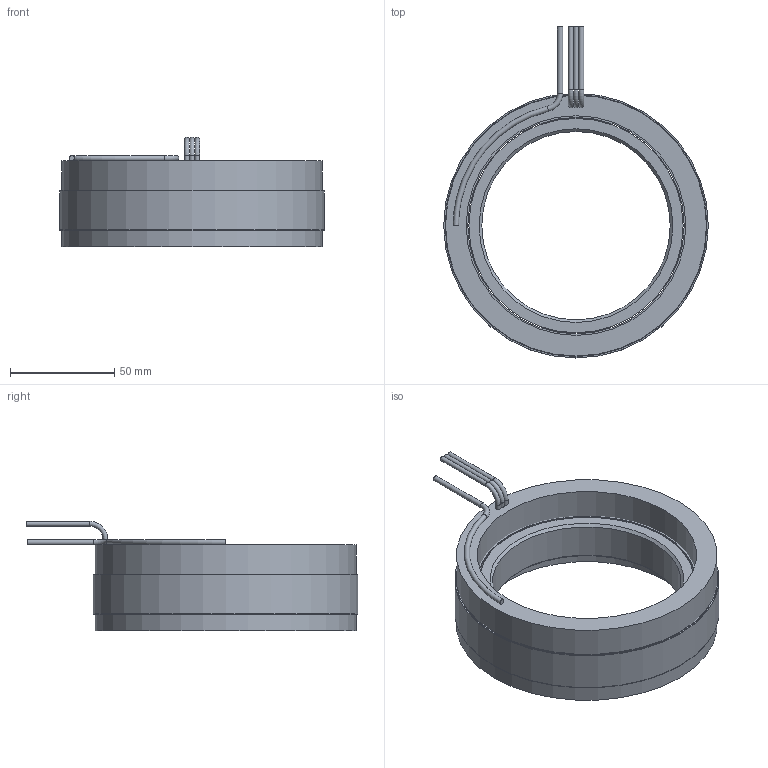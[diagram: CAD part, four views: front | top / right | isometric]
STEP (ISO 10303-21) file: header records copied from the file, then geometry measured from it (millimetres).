
FILE_DESCRIPTION (( 'STEP AP214' ), '1' );
FILE_NAME ('6100396-02.STEP', '2020-12-15T18:07:57', ( '' ), ( '' ), 'SwSTEP 2.0', 'SolidWorks 2016', '' );
FILE_SCHEMA (( 'AUTOMOTIVE_DESIGN' ));
Length unit declared in the file: inch
Products named in the file (10): 4500562-XX_4500562-02; COMP4500562-XX(COIL)_COMP4500562-02(COIL); 4400105-00; 6100396-02; 4450193-XX_4450193-02; 4250384-XX_4250384-02; 4150182-XX_4150182-02; 4600569-00
Assembly tree (10 placements, depth 4):
  6100396-02
    4250384-XX_4250384-02
      4150182-XX_4150182-02
    4500562-XX_4500562-02
      4450193-XX_4450193-02
        4450193-XX_4450193-02
        4400105-00
        4400105-00
        4600569-00  x2
      COMP4500562-XX(COIL)_COMP4500562-02(COIL)
Bounding box: 127 x 159.26 x 52.45 mm (x, y, z)
Volume: 266206 mm3; surface area: 108939.2 mm2
Topology: 8 solids, 8 shells, 47 faces, 74 edges, 46 vertices
Faces by surface type: cylinder 21, plane 19, torus 5, cone 2
Full cylindrical faces by diameter (mm): 2.286 x6, 2.54 x1, 90.424 x1, 102.87 x1, 103.886 x5, 105.41 x1, 125.222 x1, 125.73 x2, 127 x3
Entity records: 1305 total; most frequent: DIRECTION 202, CARTESIAN_POINT 143, AXIS2_PLACEMENT_3D 101, EDGE_LOOP 84, ORIENTED_EDGE 84, FACE_OUTER_BOUND 67, ADVANCED_FACE 43, CIRCLE 42
